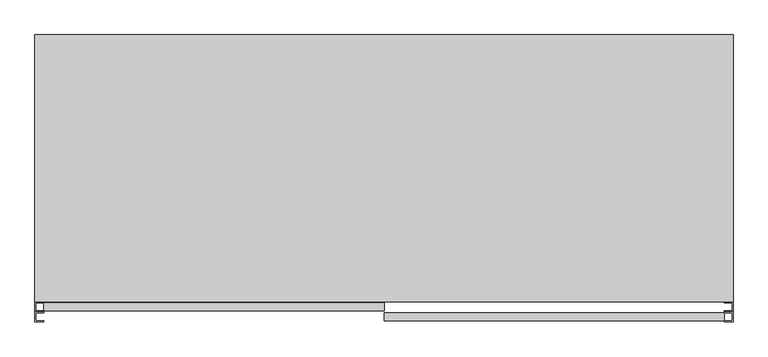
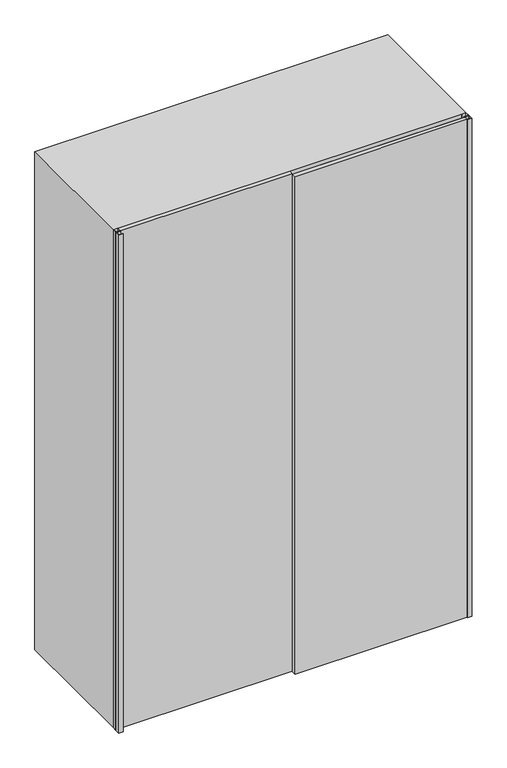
"""IFC4 building model written with IfcOpenShell, lengths in millimetres: furniture geometry, ARQ-MB-IN-Mad-Me : ARQ-MB-IN-141x210-Mad-Me4."""

from ifc_helpers import new_model, si_unit, frame, origin, origin_with_axes, place, context, project, spatial, polyline, outline, extrude, source, transform, mapped, element, save


def furniture_49c65746(model_context):
    return source(origin(), model_context, "Body", "SweptSolid", [
        extrude(outline(polyline([(2082.0, 53.7003264), (2082.0, 35.7003264), (1616.0, 35.7003264), (1616.0, -642.2996736), (1598.0, -642.2996736), (1598.0, 35.7003264), (1132.0, 35.7003264), (1132.0, -642.2996736), (1114.0, -642.2996736), (1114.0, 35.7003264), (648.0, 35.7003264), (648.0, -642.2996736), (630.0, -642.2996736), (630.0, 731.7003264), (648.0, 731.7003264), (648.0, 53.7003264), (1114.0, 53.7003264), (1114.0, 731.7003264), (1132.0, 731.7003264), (1132.0, 53.7003264), (1598.0, 53.7003264), (1598.0, 731.7003264), (1616.0, 731.7003264), (1616.0, 53.7003264), (2082.0, 53.7003264)])), frame((0.0, -440.0, 0.0), z_axis=(0.0, 1.0, 0.0), x_axis=(0.0, 0.0, 1.0)), (0.0, 0.0, 1.0), 540.0),
        extrude(outline(polyline([(2100.0, 749.7003264), (2100.0, -660.2996736), (0.0, -660.2996736), (0.0, -642.2996736), (82.0, -642.2996736), (82.0, 731.7003264), (0.0, 731.7003264), (0.0, 749.7003264), (2100.0, 749.7003264)]), holes=[polyline([(100.0, 731.7003264), (100.0, -642.2996736), (2082.0, -642.2996736), (2082.0, 731.7003264), (100.0, 731.7003264)])]), frame((0.0, -440.0, 0.0), z_axis=(0.0, 1.0, 0.0), x_axis=(0.0, 0.0, 1.0)), (0.0, 0.0, 1.0), 540.0),
        extrude(outline(polyline([(731.7003264, -478.0), (44.7003264, -478.0), (44.7003264, -462.0), (731.7003264, -462.0), (731.7003264, -478.0)])), origin_with_axes(), (0.0, 0.0, 1.0), 2100.0),
        extrude(outline(polyline([(749.7003264, -460.0), (749.7003264, -480.0), (731.7003264, -480.0), (731.7003264, -478.0), (747.7003264, -478.0), (747.7003264, -462.0), (731.7003264, -462.0), (731.7003264, -460.0), (749.7003264, -460.0)])), origin_with_axes(), (0.0, 0.0, 1.0), 2100.0),
        extrude(outline(polyline([(749.7003264, -440.0), (749.7003264, -460.0), (731.7003264, -460.0), (731.7003264, -458.0), (747.7003264, -458.0), (747.7003264, -442.0), (731.7003264, -442.0), (731.7003264, -440.0), (749.7003264, -440.0)])), origin_with_axes(), (0.0, 0.0, 1.0), 2100.0),
        extrude(outline(polyline([(-660.2996736, -480.0), (-660.2996736, -460.0), (-642.2996736, -460.0), (-642.2996736, -462.0), (-658.2996736, -462.0), (-658.2996736, -478.0), (-642.2996736, -478.0), (-642.2996736, -480.0), (-660.2996736, -480.0)])), origin_with_axes(), (0.0, 0.0, 1.0), 2100.0),
        extrude(outline(polyline([(-642.2996736, -440.0), (-642.2996736, -442.0), (-658.2996736, -442.0), (-658.2996736, -458.0), (-642.2996736, -458.0), (-642.2996736, -460.0), (-660.2996736, -460.0), (-660.2996736, -440.0), (-642.2996736, -440.0)])), origin_with_axes(), (0.0, 0.0, 1.0), 2100.0),
        extrude(outline(polyline([(44.7003264, -458.0), (-642.2996736, -458.0), (-642.2996736, -442.0), (44.7003264, -442.0), (44.7003264, -458.0)])), origin_with_axes(), (0.0, 0.0, 1.0), 2100.0),
    ])


if __name__ == "__main__":
    model = new_model("IFC4")
    model_context = context("Model", 3, world=origin())
    ifc_project = project(units=[si_unit("LENGTHUNIT", "METRE", prefix="MILLI")], contexts=[model_context])
    site = spatial("IfcSite", under=ifc_project)
    building = spatial("IfcBuilding", under=site)
    placement = place(None, origin())
    furniture_shape = furniture_49c65746(model_context)
    element("IfcFurniture", 1, ObjectType="ARQ-MB-IN-Mad-Me : ARQ-MB-IN-141x210-Mad-Me4", at=placement, inside=building, context=model_context, shape_type="MappedRepresentation", body=[
        mapped(furniture_shape, transform((0.0, 0.0, 0.0), x_axis=(1.0, 0.0, 0.0), y_axis=(0.0, 1.0, 0.0), z_axis=(0.0, 0.0, 1.0))),
    ])
    save(model, "model.ifc")
